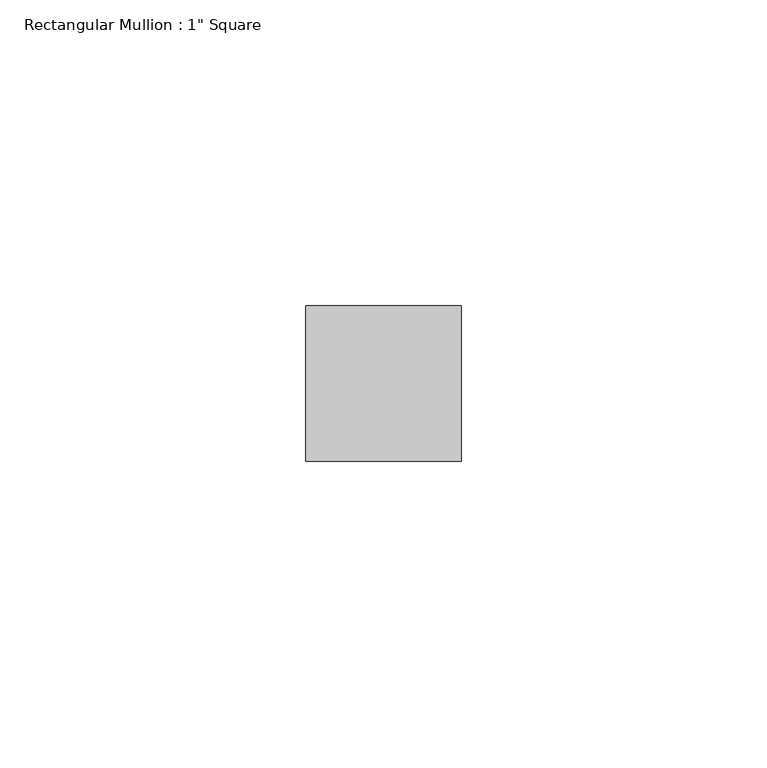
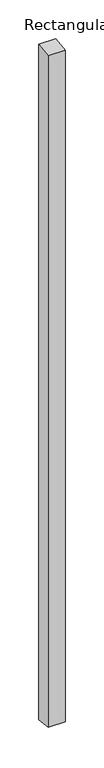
"""IFC4 building model written with IfcOpenShell, lengths in millimetres: member geometry."""

from ifc_helpers import new_model, si_unit, origin, place, context, project, spatial, faceted_brep, source, transform, mapped, element, save


def member_8e37f879(model_context):
    return source(origin(), model_context, "Body", "Brep", [
        faceted_brep([(-25.4, 12.7, 1.1450845), (0.0, 12.7, 1.482296), (0.0, 12.7, -1068.282296), (-25.4, 12.7, -1067.9450845), (-25.4, -12.7, -1.8195076), (-25.4, -12.7, -1064.9804924), (0.0, -12.7, -1.482296), (0.0, -12.7, -1065.317704)], [[[0, 1, 2, 3]], [[4, 0, 3, 5]], [[6, 4, 5, 7]], [[1, 6, 7, 2]], [[1, 0, 4, 6]], [[2, 7, 5, 3]]]),
    ])


if __name__ == "__main__":
    model = new_model("IFC4")
    model_context = context("Model", 3, world=origin())
    ifc_project = project(units=[si_unit("LENGTHUNIT", "METRE", prefix="MILLI")], contexts=[model_context])
    site = spatial("IfcSite", under=ifc_project)
    building = spatial("IfcBuilding", under=site)
    placement = place(None, origin())
    member_shape = member_8e37f879(model_context)
    element("IfcMember", 1, ObjectType="Rectangular Mullion : 1\" Square", at=placement, inside=building, context=model_context, shape_type="MappedRepresentation", body=[
        mapped(member_shape, transform((0.0, 0.0, 0.0), x_axis=(1.0, 0.0, 0.0), y_axis=(0.0, 1.0, 0.0), z_axis=(0.0, 0.0, 1.0))),
    ])
    save(model, "model.ifc")
